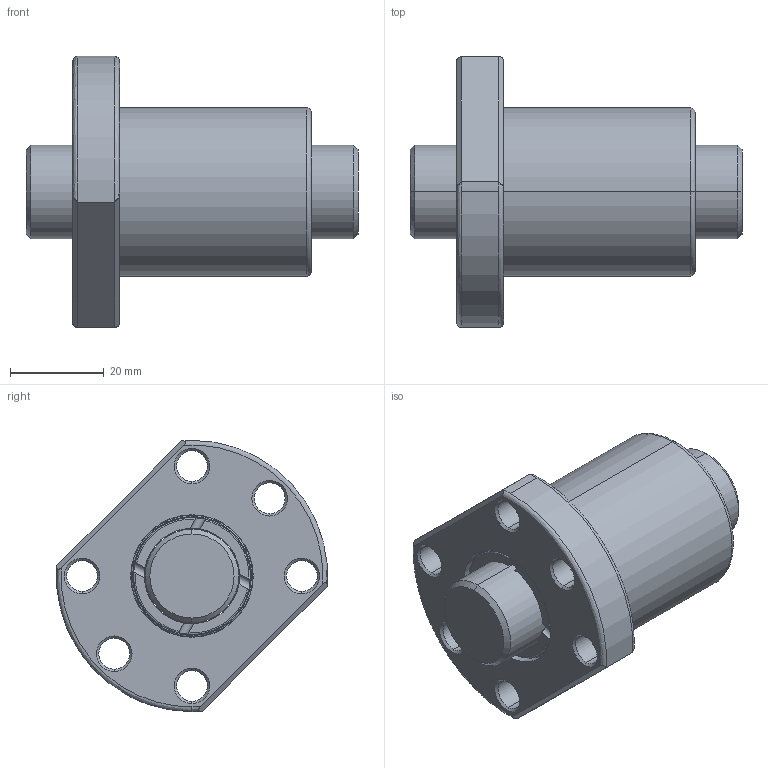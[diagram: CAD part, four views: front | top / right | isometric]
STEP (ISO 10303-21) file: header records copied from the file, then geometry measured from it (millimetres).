
FILE_DESCRIPTION (( 'STEP AP203' ), '1' );
FILE_NAME ('SFUR02005T4D-C.STEP', '2020-06-16T07:46:00', ( '' ), ( '' ), 'SwSTEP 2.0', 'SolidWorks 2013', '' );
FILE_SCHEMA (( 'CONFIG_CONTROL_DESIGN' ));
Length unit declared in the file: millimetre
Products named in the file (1): SFUR02005T4D-C
Bounding box: 71 x 57.87 x 58 mm (x, y, z)
Volume: 65234.7 mm3; surface area: 21687.2 mm2
Topology: 2 solids, 2 shells, 123 faces, 305 edges, 190 vertices
Faces by surface type: cylinder 55, plane 26, torus 18, cone 16, bspline 8
Entity records: 5179 total; most frequent: CARTESIAN_POINT 2189, DIRECTION 621, ORIENTED_EDGE 610, EDGE_CURVE 305, AXIS2_PLACEMENT_3D 268, VERTEX_POINT 190, CIRCLE 152, EDGE_LOOP 145
